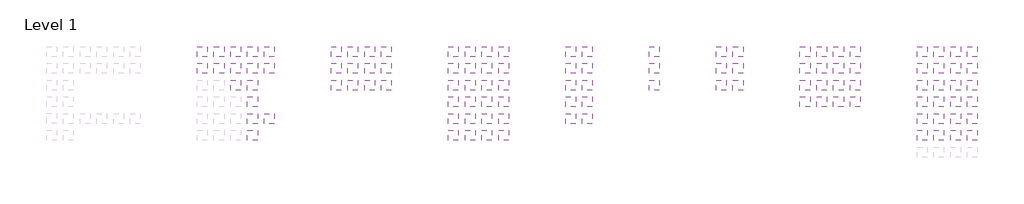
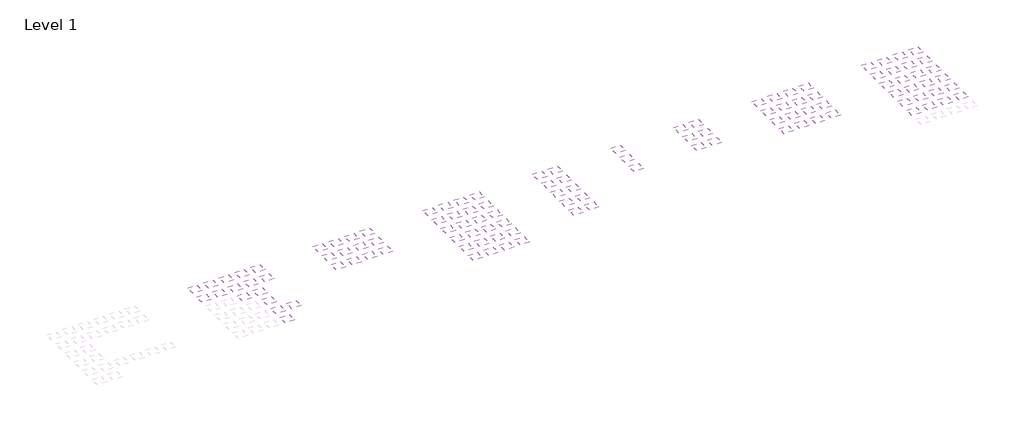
# One storey, part 4 of 4: 111 coverings.
"""IFC4 building model written with IfcOpenShell, lengths in millimetres."""

from ifc_helpers import new_model, si_unit, frame, origin, place, context, project, spatial, polyline, outline, extrude, element, save

model = new_model("IFC4")

# Units and contexts
model_context = context("Model", 3, world=origin())
ifc_project = project(units=[si_unit("LENGTHUNIT", "METRE", prefix="MILLI")], contexts=[model_context])

# Site, building, storey
site = spatial("IfcSite", under=ifc_project)
building = spatial("IfcBuilding", under=site)
storey = spatial("IfcBuildingStorey", under=building, Name="Level 1", Elevation=0.0)

# Coverings
placement = place(None, origin())
element("IfcCovering", 1, ObjectType="OWA Constellation S3 cliq 600x600_15", at=placement, inside=storey, context=model_context, shape_type="SweptSolid", body=[
    extrude(outline(polyline([(83112.2416021, 23626.6149871), (83112.2416021, 20626.6149871), (80112.2416021, 20626.6149871), (80112.2416021, 23626.6149871), (83112.2416021, 23626.6149871)])), frame((0.0, 0.0, 2600.0), z_axis=(0.0, 0.0, 1.0), x_axis=(1.0, 0.0, 0.0)), (0.0, 0.0, 1.0), 38.0),
])
element("IfcCovering", 2, ObjectType="OWA Constellation S3 cliq 600x1200_15", at=placement, inside=storey, context=model_context, shape_type="SweptSolid", body=[
    extrude(outline(polyline([(88114.2416021, 23626.6149871), (88114.2416021, 20626.6149871), (85114.2416021, 20626.6149871), (85114.2416021, 23626.6149871), (88114.2416021, 23626.6149871)])), frame((0.0, 0.0, 2600.0), z_axis=(0.0, 0.0, 1.0), x_axis=(1.0, 0.0, 0.0)), (0.0, 0.0, 1.0), 38.0),
])
element("IfcCovering", 3, ObjectType="OWA Constellation S3 cliq 625x625_15", at=placement, inside=storey, context=model_context, shape_type="SweptSolid", body=[
    extrude(outline(polyline([(93114.2416021, 23626.6149871), (93114.2416021, 20626.6149871), (90114.2416021, 20626.6149871), (90114.2416021, 23626.6149871), (93114.2416021, 23626.6149871)])), frame((0.0, 0.0, 2600.0), z_axis=(0.0, 0.0, 1.0), x_axis=(1.0, 0.0, 0.0)), (0.0, 0.0, 1.0), 38.0),
])
element("IfcCovering", 4, ObjectType="OWA Constellation S3 cliq 625x1250_15", at=placement, inside=storey, context=model_context, shape_type="SweptSolid", body=[
    extrude(outline(polyline([(98114.2416021, 23626.6149871), (98114.2416021, 20626.6149871), (95114.2416021, 20626.6149871), (95114.2416021, 23626.6149871), (98114.2416021, 23626.6149871)])), frame((0.0, 0.0, 2600.0), z_axis=(0.0, 0.0, 1.0), x_axis=(1.0, 0.0, 0.0)), (0.0, 0.0, 1.0), 38.0),
])
element("IfcCovering", 5, ObjectType="OWA Constellation S3a 625x625_15", at=placement, inside=storey, context=model_context, shape_type="SweptSolid", body=[
    extrude(outline(polyline([(93114.2416021, 18626.6149871), (93114.2416021, 15626.6149871), (90114.2416021, 15626.6149871), (90114.2416021, 18626.6149871), (93114.2416021, 18626.6149871)])), frame((0.0, 0.0, 2600.0), z_axis=(0.0, 0.0, 1.0), x_axis=(1.0, 0.0, 0.0)), (0.0, 0.0, 1.0), 38.0),
])
element("IfcCovering", 6, ObjectType="OWA Constellation S3a 625x1250_15", at=placement, inside=storey, context=model_context, shape_type="SweptSolid", body=[
    extrude(outline(polyline([(98114.2416021, 18626.6149871), (98114.2416021, 15626.6149871), (95114.2416021, 15626.6149871), (95114.2416021, 18626.6149871), (98114.2416021, 18626.6149871)])), frame((0.0, 0.0, 2600.0), z_axis=(0.0, 0.0, 1.0), x_axis=(1.0, 0.0, 0.0)), (0.0, 0.0, 1.0), 38.0),
])
element("IfcCovering", 7, ObjectType="OWA Constellation S3a cliq 625x1250_15", at=placement, inside=storey, context=model_context, shape_type="SweptSolid", body=[
    extrude(outline(polyline([(98114.2416021, 13626.6149871), (98114.2416021, 10626.6149871), (95114.2416021, 10626.6149871), (95114.2416021, 13626.6149871), (98114.2416021, 13626.6149871)])), frame((0.0, 0.0, 2600.0), z_axis=(0.0, 0.0, 1.0), x_axis=(1.0, 0.0, 0.0)), (0.0, 0.0, 1.0), 38.0),
])
element("IfcCovering", 8, ObjectType="OWA Constellation S15 cliq 625x1250_15", at=placement, inside=storey, context=model_context, shape_type="SweptSolid", body=[
    extrude(outline(polyline([(98114.2416021, 8626.6149871), (98114.2416021, 5626.6149871), (95114.2416021, 5626.6149871), (95114.2416021, 8626.6149871), (98114.2416021, 8626.6149871)])), frame((0.0, 0.0, 2600.0), z_axis=(0.0, 0.0, 1.0), x_axis=(1.0, 0.0, 0.0)), (0.0, 0.0, 1.0), 38.0),
])
element("IfcCovering", 9, ObjectType="OWA Constellation S15a cliq 625x1250_15", at=placement, inside=storey, context=model_context, shape_type="SweptSolid", body=[
    extrude(outline(polyline([(98114.2416021, 3626.6149871), (98114.2416021, 626.6149871), (95114.2416021, 626.6149871), (95114.2416021, 3626.6149871), (98114.2416021, 3626.6149871)])), frame((0.0, 0.0, 2600.0), z_axis=(0.0, 0.0, 1.0), x_axis=(1.0, 0.0, 0.0)), (0.0, 0.0, 1.0), 38.0),
])
element("IfcCovering", 10, ObjectType="OWA Constellation S3 600x600_15", at=placement, inside=storey, context=model_context, shape_type="SweptSolid", body=[
    extrude(outline(polyline([(83112.2416021, 28626.6149871), (83112.2416021, 25626.6149871), (80112.2416021, 25626.6149871), (80112.2416021, 28626.6149871), (83112.2416021, 28626.6149871)])), frame((0.0, 0.0, 2600.0), z_axis=(0.0, 0.0, 1.0), x_axis=(1.0, 0.0, 0.0)), (0.0, 0.0, 1.0), 38.0),
])
element("IfcCovering", 11, ObjectType="OWA Constellation S3 600x1200_15", at=placement, inside=storey, context=model_context, shape_type="SweptSolid", body=[
    extrude(outline(polyline([(88114.2416021, 28626.6149871), (88114.2416021, 25626.6149871), (85114.2416021, 25626.6149871), (85114.2416021, 28626.6149871), (88114.2416021, 28626.6149871)])), frame((0.0, 0.0, 2600.0), z_axis=(0.0, 0.0, 1.0), x_axis=(1.0, 0.0, 0.0)), (0.0, 0.0, 1.0), 38.0),
])
element("IfcCovering", 12, ObjectType="OWA Constellation S3 625x625_15", at=placement, inside=storey, context=model_context, shape_type="SweptSolid", body=[
    extrude(outline(polyline([(93114.2416021, 28626.6149871), (93114.2416021, 25626.6149871), (90114.2416021, 25626.6149871), (90114.2416021, 28626.6149871), (93114.2416021, 28626.6149871)])), frame((0.0, 0.0, 2600.0), z_axis=(0.0, 0.0, 1.0), x_axis=(1.0, 0.0, 0.0)), (0.0, 0.0, 1.0), 38.0),
])
element("IfcCovering", 13, ObjectType="OWA Constellation S3 625x1250_15", at=placement, inside=storey, context=model_context, shape_type="SweptSolid", body=[
    extrude(outline(polyline([(98114.2416021, 28626.6149871), (98114.2416021, 25626.6149871), (95114.2416021, 25626.6149871), (95114.2416021, 28626.6149871), (98114.2416021, 28626.6149871)])), frame((0.0, 0.0, 2600.0), z_axis=(0.0, 0.0, 1.0), x_axis=(1.0, 0.0, 0.0)), (0.0, 0.0, 1.0), 38.0),
])
element("IfcCovering", 14, ObjectType="OWA Constellation smart S3 600x600_14", at=placement, inside=storey, context=model_context, shape_type="SweptSolid", body=[
    extrude(outline(polyline([(123112.2416021, 28626.6149871), (123112.2416021, 25626.6149871), (120112.2416021, 25626.6149871), (120112.2416021, 28626.6149871), (123112.2416021, 28626.6149871)])), frame((0.0, 0.0, 2600.0), z_axis=(0.0, 0.0, 1.0), x_axis=(1.0, 0.0, 0.0)), (0.0, 0.0, 1.0), 38.0),
])
element("IfcCovering", 15, ObjectType="OWA Constellation smart S3 625x625_14", at=placement, inside=storey, context=model_context, shape_type="SweptSolid", body=[
    extrude(outline(polyline([(133114.2416021, 28626.6149871), (133114.2416021, 25626.6149871), (130114.2416021, 25626.6149871), (130114.2416021, 28626.6149871), (133114.2416021, 28626.6149871)])), frame((0.0, 0.0, 2600.0), z_axis=(0.0, 0.0, 1.0), x_axis=(1.0, 0.0, 0.0)), (0.0, 0.0, 1.0), 38.0),
])
element("IfcCovering", 16, ObjectType="OWA Constellation smart S3 cliq 600x600_14", at=placement, inside=storey, context=model_context, shape_type="SweptSolid", body=[
    extrude(outline(polyline([(123112.2416021, 23626.6149871), (123112.2416021, 20626.6149871), (120112.2416021, 20626.6149871), (120112.2416021, 23626.6149871), (123112.2416021, 23626.6149871)])), frame((0.0, 0.0, 2600.0), z_axis=(0.0, 0.0, 1.0), x_axis=(1.0, 0.0, 0.0)), (0.0, 0.0, 1.0), 38.0),
])
element("IfcCovering", 17, ObjectType="OWA Constellation smart S3 cliq 625x625_14", at=placement, inside=storey, context=model_context, shape_type="SweptSolid", body=[
    extrude(outline(polyline([(133114.2416021, 23626.6149871), (133114.2416021, 20626.6149871), (130114.2416021, 20626.6149871), (130114.2416021, 23626.6149871), (133114.2416021, 23626.6149871)])), frame((0.0, 0.0, 2600.0), z_axis=(0.0, 0.0, 1.0), x_axis=(1.0, 0.0, 0.0)), (0.0, 0.0, 1.0), 38.0),
])
element("IfcCovering", 18, ObjectType="OWA Constellation smart S15 cliq 600x600_14", at=placement, inside=storey, context=model_context, shape_type="SweptSolid", body=[
    extrude(outline(polyline([(123112.2416021, 18626.6149871), (123112.2416021, 15626.6149871), (120112.2416021, 15626.6149871), (120112.2416021, 18626.6149871), (123112.2416021, 18626.6149871)])), frame((0.0, 0.0, 2600.0), z_axis=(0.0, 0.0, 1.0), x_axis=(1.0, 0.0, 0.0)), (0.0, 0.0, 1.0), 38.0),
])
element("IfcCovering", 19, ObjectType="OWA Constellation smart S15 cliq 625x625_14", at=placement, inside=storey, context=model_context, shape_type="SweptSolid", body=[
    extrude(outline(polyline([(133114.2416021, 18626.6149871), (133114.2416021, 15626.6149871), (130114.2416021, 15626.6149871), (130114.2416021, 18626.6149871), (133114.2416021, 18626.6149871)])), frame((0.0, 0.0, 2600.0), z_axis=(0.0, 0.0, 1.0), x_axis=(1.0, 0.0, 0.0)), (0.0, 0.0, 1.0), 38.0),
])
element("IfcCovering", 20, ObjectType="OWA Cosmos/N S3 600x600_15", at=placement, inside=storey, context=model_context, shape_type="SweptSolid", body=[
    extrude(outline(polyline([(158110.2416021, 28626.6149871), (158110.2416021, 25626.6149871), (155110.2416021, 25626.6149871), (155110.2416021, 28626.6149871), (158110.2416021, 28626.6149871)])), frame((0.0, 0.0, 2600.0), z_axis=(0.0, 0.0, 1.0), x_axis=(1.0, 0.0, 0.0)), (0.0, 0.0, 1.0), 38.0),
])
element("IfcCovering", 21, ObjectType="OWA Cosmos/N S3 625x625_15", at=placement, inside=storey, context=model_context, shape_type="SweptSolid", body=[
    extrude(outline(polyline([(168112.2416021, 28626.6149871), (168112.2416021, 25626.6149871), (165112.2416021, 25626.6149871), (165112.2416021, 28626.6149871), (168112.2416021, 28626.6149871)])), frame((0.0, 0.0, 2600.0), z_axis=(0.0, 0.0, 1.0), x_axis=(1.0, 0.0, 0.0)), (0.0, 0.0, 1.0), 38.0),
])
element("IfcCovering", 22, ObjectType="OWA Cosmos/N S3 600x1200_15", at=placement, inside=storey, context=model_context, shape_type="SweptSolid", body=[
    extrude(outline(polyline([(163112.2416021, 28626.6149871), (163112.2416021, 25626.6149871), (160112.2416021, 25626.6149871), (160112.2416021, 28626.6149871), (163112.2416021, 28626.6149871)])), frame((0.0, 0.0, 2600.0), z_axis=(0.0, 0.0, 1.0), x_axis=(1.0, 0.0, 0.0)), (0.0, 0.0, 1.0), 38.0),
])
element("IfcCovering", 23, ObjectType="OWA Cosmos/N S3 625x1250_15", at=placement, inside=storey, context=model_context, shape_type="SweptSolid", body=[
    extrude(outline(polyline([(173110.2416021, 28626.6149871), (173110.2416021, 25626.6149871), (170110.2416021, 25626.6149871), (170110.2416021, 28626.6149871), (173110.2416021, 28626.6149871)])), frame((0.0, 0.0, 2600.0), z_axis=(0.0, 0.0, 1.0), x_axis=(1.0, 0.0, 0.0)), (0.0, 0.0, 1.0), 38.0),
])
element("IfcCovering", 24, ObjectType="OWA Cosmos/N S3a 600x600_15", at=placement, inside=storey, context=model_context, shape_type="SweptSolid", body=[
    extrude(outline(polyline([(158110.2416021, 18626.6149871), (158110.2416021, 15626.6149871), (155110.2416021, 15626.6149871), (155110.2416021, 18626.6149871), (158110.2416021, 18626.6149871)])), frame((0.0, 0.0, 2600.0), z_axis=(0.0, 0.0, 1.0), x_axis=(1.0, 0.0, 0.0)), (0.0, 0.0, 1.0), 38.0),
])
element("IfcCovering", 25, ObjectType="OWA Cosmos/N S3a 625x625_15", at=placement, inside=storey, context=model_context, shape_type="SweptSolid", body=[
    extrude(outline(polyline([(168112.2416021, 18626.6149871), (168112.2416021, 15626.6149871), (165112.2416021, 15626.6149871), (165112.2416021, 18626.6149871), (168112.2416021, 18626.6149871)])), frame((0.0, 0.0, 2600.0), z_axis=(0.0, 0.0, 1.0), x_axis=(1.0, 0.0, 0.0)), (0.0, 0.0, 1.0), 38.0),
])
element("IfcCovering", 26, ObjectType="OWA Cosmos/N S3a 600x1200_15", at=placement, inside=storey, context=model_context, shape_type="SweptSolid", body=[
    extrude(outline(polyline([(163112.2416021, 18626.6149871), (163112.2416021, 15626.6149871), (160112.2416021, 15626.6149871), (160112.2416021, 18626.6149871), (163112.2416021, 18626.6149871)])), frame((0.0, 0.0, 2600.0), z_axis=(0.0, 0.0, 1.0), x_axis=(1.0, 0.0, 0.0)), (0.0, 0.0, 1.0), 38.0),
])
element("IfcCovering", 27, ObjectType="OWA Cosmos/N S3a 625x1250_15", at=placement, inside=storey, context=model_context, shape_type="SweptSolid", body=[
    extrude(outline(polyline([(173112.2416021, 18626.6149871), (173112.2416021, 15626.6149871), (170112.2416021, 15626.6149871), (170112.2416021, 18626.6149871), (173112.2416021, 18626.6149871)])), frame((0.0, 0.0, 2600.0), z_axis=(0.0, 0.0, 1.0), x_axis=(1.0, 0.0, 0.0)), (0.0, 0.0, 1.0), 38.0),
])
element("IfcCovering", 28, ObjectType="OWA Cosmos/N S15 cliq 600x600_15", at=placement, inside=storey, context=model_context, shape_type="SweptSolid", body=[
    extrude(outline(polyline([(158110.2416021, 8626.6149871), (158110.2416021, 5626.6149871), (155110.2416021, 5626.6149871), (155110.2416021, 8626.6149871), (158110.2416021, 8626.6149871)])), frame((0.0, 0.0, 2600.0), z_axis=(0.0, 0.0, 1.0), x_axis=(1.0, 0.0, 0.0)), (0.0, 0.0, 1.0), 38.0),
])
element("IfcCovering", 29, ObjectType="OWA Cosmos/N S15 cliq 625x625_15", at=placement, inside=storey, context=model_context, shape_type="SweptSolid", body=[
    extrude(outline(polyline([(168112.2416021, 8626.6149871), (168112.2416021, 5626.6149871), (165112.2416021, 5626.6149871), (165112.2416021, 8626.6149871), (168112.2416021, 8626.6149871)])), frame((0.0, 0.0, 2600.0), z_axis=(0.0, 0.0, 1.0), x_axis=(1.0, 0.0, 0.0)), (0.0, 0.0, 1.0), 38.0),
])
element("IfcCovering", 30, ObjectType="OWA Cosmos/N S15 cliq 600x1200_15", at=placement, inside=storey, context=model_context, shape_type="SweptSolid", body=[
    extrude(outline(polyline([(163112.2416021, 8626.6149871), (163112.2416021, 5626.6149871), (160112.2416021, 5626.6149871), (160112.2416021, 8626.6149871), (163112.2416021, 8626.6149871)])), frame((0.0, 0.0, 2600.0), z_axis=(0.0, 0.0, 1.0), x_axis=(1.0, 0.0, 0.0)), (0.0, 0.0, 1.0), 38.0),
])
element("IfcCovering", 31, ObjectType="OWA Cosmos/N S15 cliq 625x1250_15", at=placement, inside=storey, context=model_context, shape_type="SweptSolid", body=[
    extrude(outline(polyline([(173112.2416021, 8626.6149871), (173112.2416021, 5626.6149871), (170112.2416021, 5626.6149871), (170112.2416021, 8626.6149871), (173112.2416021, 8626.6149871)])), frame((0.0, 0.0, 2600.0), z_axis=(0.0, 0.0, 1.0), x_axis=(1.0, 0.0, 0.0)), (0.0, 0.0, 1.0), 38.0),
])
element("IfcCovering", 32, ObjectType="OWA Cosmos/N S15a cliq 600x600_15", at=placement, inside=storey, context=model_context, shape_type="SweptSolid", body=[
    extrude(outline(polyline([(158110.2416021, 3626.6149871), (158110.2416021, 626.6149871), (155110.2416021, 626.6149871), (155110.2416021, 3626.6149871), (158110.2416021, 3626.6149871)])), frame((0.0, 0.0, 2600.0), z_axis=(0.0, 0.0, 1.0), x_axis=(1.0, 0.0, 0.0)), (0.0, 0.0, 1.0), 38.0),
])
element("IfcCovering", 33, ObjectType="OWA Cosmos/N S15a cliq 625x625_15", at=placement, inside=storey, context=model_context, shape_type="SweptSolid", body=[
    extrude(outline(polyline([(168112.2416021, 3626.6149871), (168112.2416021, 626.6149871), (165112.2416021, 626.6149871), (165112.2416021, 3626.6149871), (168112.2416021, 3626.6149871)])), frame((0.0, 0.0, 2600.0), z_axis=(0.0, 0.0, 1.0), x_axis=(1.0, 0.0, 0.0)), (0.0, 0.0, 1.0), 38.0),
])
element("IfcCovering", 34, ObjectType="OWA Cosmos/N S15a cliq 600x1200_15", at=placement, inside=storey, context=model_context, shape_type="SweptSolid", body=[
    extrude(outline(polyline([(163112.2416021, 3626.6149871), (163112.2416021, 626.6149871), (160112.2416021, 626.6149871), (160112.2416021, 3626.6149871), (163112.2416021, 3626.6149871)])), frame((0.0, 0.0, 2600.0), z_axis=(0.0, 0.0, 1.0), x_axis=(1.0, 0.0, 0.0)), (0.0, 0.0, 1.0), 38.0),
])
element("IfcCovering", 35, ObjectType="OWA Cosmos/N S15a cliq 625x1250_15", at=placement, inside=storey, context=model_context, shape_type="SweptSolid", body=[
    extrude(outline(polyline([(173112.2416021, 3626.6149871), (173112.2416021, 626.6149871), (170112.2416021, 626.6149871), (170112.2416021, 3626.6149871), (173112.2416021, 3626.6149871)])), frame((0.0, 0.0, 2600.0), z_axis=(0.0, 0.0, 1.0), x_axis=(1.0, 0.0, 0.0)), (0.0, 0.0, 1.0), 38.0),
])
element("IfcCovering", 36, ObjectType="OWA Cosmos/N S3 cliq 600x600_15", at=placement, inside=storey, context=model_context, shape_type="SweptSolid", body=[
    extrude(outline(polyline([(158110.2416021, 23626.6149871), (158110.2416021, 20626.6149871), (155110.2416021, 20626.6149871), (155110.2416021, 23626.6149871), (158110.2416021, 23626.6149871)])), frame((0.0, 0.0, 2600.0), z_axis=(0.0, 0.0, 1.0), x_axis=(1.0, 0.0, 0.0)), (0.0, 0.0, 1.0), 38.0),
])
element("IfcCovering", 37, ObjectType="OWA Cosmos/N S3 cliq 625x625_15", at=placement, inside=storey, context=model_context, shape_type="SweptSolid", body=[
    extrude(outline(polyline([(168112.2416021, 23626.6149871), (168112.2416021, 20626.6149871), (165112.2416021, 20626.6149871), (165112.2416021, 23626.6149871), (168112.2416021, 23626.6149871)])), frame((0.0, 0.0, 2600.0), z_axis=(0.0, 0.0, 1.0), x_axis=(1.0, 0.0, 0.0)), (0.0, 0.0, 1.0), 38.0),
])
element("IfcCovering", 38, ObjectType="OWA Cosmos/N S3 cliq 600x1200_15", at=placement, inside=storey, context=model_context, shape_type="SweptSolid", body=[
    extrude(outline(polyline([(163112.2416021, 23626.6149871), (163112.2416021, 20626.6149871), (160112.2416021, 20626.6149871), (160112.2416021, 23626.6149871), (163112.2416021, 23626.6149871)])), frame((0.0, 0.0, 2600.0), z_axis=(0.0, 0.0, 1.0), x_axis=(1.0, 0.0, 0.0)), (0.0, 0.0, 1.0), 38.0),
])
element("IfcCovering", 39, ObjectType="OWA Cosmos/N S3 cliq 625x1250_15", at=placement, inside=storey, context=model_context, shape_type="SweptSolid", body=[
    extrude(outline(polyline([(173112.2416021, 23626.6149871), (173112.2416021, 20626.6149871), (170112.2416021, 20626.6149871), (170112.2416021, 23626.6149871), (173112.2416021, 23626.6149871)])), frame((0.0, 0.0, 2600.0), z_axis=(0.0, 0.0, 1.0), x_axis=(1.0, 0.0, 0.0)), (0.0, 0.0, 1.0), 38.0),
])
element("IfcCovering", 40, ObjectType="OWA Cosmos/O S3 625x625_15", at=placement, inside=storey, context=model_context, shape_type="SweptSolid", body=[
    extrude(outline(polyline([(193104.2416021, 28626.6149871), (193104.2416021, 25626.6149871), (190104.2416021, 25626.6149871), (190104.2416021, 28626.6149871), (193104.2416021, 28626.6149871)])), frame((0.0, 0.0, 2600.0), z_axis=(0.0, 0.0, 1.0), x_axis=(1.0, 0.0, 0.0)), (0.0, 0.0, 1.0), 38.0),
])
element("IfcCovering", 41, ObjectType="OWA Cosmos/O S3a 625x1250_15", at=placement, inside=storey, context=model_context, shape_type="SweptSolid", body=[
    extrude(outline(polyline([(198106.2416021, 18626.6149871), (198106.2416021, 15626.6149871), (195106.2416021, 15626.6149871), (195106.2416021, 18626.6149871), (198106.2416021, 18626.6149871)])), frame((0.0, 0.0, 2600.0), z_axis=(0.0, 0.0, 1.0), x_axis=(1.0, 0.0, 0.0)), (0.0, 0.0, 1.0), 38.0),
])
element("IfcCovering", 42, ObjectType="OWA Cosmos/O S3 cliq 625x625_15", at=placement, inside=storey, context=model_context, shape_type="SweptSolid", body=[
    extrude(outline(polyline([(193104.2416021, 23626.6149871), (193104.2416021, 20626.6149871), (190104.2416021, 20626.6149871), (190104.2416021, 23626.6149871), (193104.2416021, 23626.6149871)])), frame((0.0, 0.0, 2600.0), z_axis=(0.0, 0.0, 1.0), x_axis=(1.0, 0.0, 0.0)), (0.0, 0.0, 1.0), 38.0),
])
element("IfcCovering", 43, ObjectType="OWA Cosmos/O S3a cliq 625x1250_15", at=placement, inside=storey, context=model_context, shape_type="SweptSolid", body=[
    extrude(outline(polyline([(198104.2416021, 13626.6149871), (198104.2416021, 10626.6149871), (195104.2416021, 10626.6149871), (195104.2416021, 13626.6149871), (198104.2416021, 13626.6149871)])), frame((0.0, 0.0, 2600.0), z_axis=(0.0, 0.0, 1.0), x_axis=(1.0, 0.0, 0.0)), (0.0, 0.0, 1.0), 38.0),
])
element("IfcCovering", 44, ObjectType="OWA Cosmos/O S3a 625x625_15", at=placement, inside=storey, context=model_context, shape_type="SweptSolid", body=[
    extrude(outline(polyline([(193104.2416021, 18626.6149871), (193104.2416021, 15626.6149871), (190104.2416021, 15626.6149871), (190104.2416021, 18626.6149871), (193104.2416021, 18626.6149871)])), frame((0.0, 0.0, 2600.0), z_axis=(0.0, 0.0, 1.0), x_axis=(1.0, 0.0, 0.0)), (0.0, 0.0, 1.0), 38.0),
])
element("IfcCovering", 45, ObjectType="OWA Cosmos/O S15 cliq 625x1250_15", at=placement, inside=storey, context=model_context, shape_type="SweptSolid", body=[
    extrude(outline(polyline([(198104.2416021, 8626.6149871), (198104.2416021, 5626.6149871), (195104.2416021, 5626.6149871), (195104.2416021, 8626.6149871), (198104.2416021, 8626.6149871)])), frame((0.0, 0.0, 2600.0), z_axis=(0.0, 0.0, 1.0), x_axis=(1.0, 0.0, 0.0)), (0.0, 0.0, 1.0), 38.0),
])
element("IfcCovering", 46, ObjectType="OWA Cosmos/O S3 cliq 625x1250_15", at=placement, inside=storey, context=model_context, shape_type="SweptSolid", body=[
    extrude(outline(polyline([(198104.2416021, 23626.6149871), (198104.2416021, 20626.6149871), (195104.2416021, 20626.6149871), (195104.2416021, 23626.6149871), (198104.2416021, 23626.6149871)])), frame((0.0, 0.0, 2600.0), z_axis=(0.0, 0.0, 1.0), x_axis=(1.0, 0.0, 0.0)), (0.0, 0.0, 1.0), 38.0),
])
element("IfcCovering", 47, ObjectType="OWA Cosmos/O S15 cliq 625x625_15", at=placement, inside=storey, context=model_context, shape_type="SweptSolid", body=[
    extrude(outline(polyline([(193104.2416021, 8626.6149871), (193104.2416021, 5626.6149871), (190104.2416021, 5626.6149871), (190104.2416021, 8626.6149871), (193104.2416021, 8626.6149871)])), frame((0.0, 0.0, 2600.0), z_axis=(0.0, 0.0, 1.0), x_axis=(1.0, 0.0, 0.0)), (0.0, 0.0, 1.0), 38.0),
])
element("IfcCovering", 48, ObjectType="OWA Cosmos/O S3 625x1250_15", at=placement, inside=storey, context=model_context, shape_type="SweptSolid", body=[
    extrude(outline(polyline([(198104.2416021, 28626.6149871), (198104.2416021, 25626.6149871), (195104.2416021, 25626.6149871), (195104.2416021, 28626.6149871), (198104.2416021, 28626.6149871)])), frame((0.0, 0.0, 2600.0), z_axis=(0.0, 0.0, 1.0), x_axis=(1.0, 0.0, 0.0)), (0.0, 0.0, 1.0), 38.0),
])
element("IfcCovering", 49, ObjectType="OWA Cosmos/O S3a cliq 625x625_15", at=placement, inside=storey, context=model_context, shape_type="SweptSolid", body=[
    extrude(outline(polyline([(193104.2416021, 13626.6149871), (193104.2416021, 10626.6149871), (190104.2416021, 10626.6149871), (190104.2416021, 13626.6149871), (193104.2416021, 13626.6149871)])), frame((0.0, 0.0, 2600.0), z_axis=(0.0, 0.0, 1.0), x_axis=(1.0, 0.0, 0.0)), (0.0, 0.0, 1.0), 38.0),
])
element("IfcCovering", 50, ObjectType="OWA Finetta S3 625x625_15", at=placement, inside=storey, context=model_context, shape_type="SweptSolid", body=[
    extrude(outline(polyline([(218102.2416021, 28626.6149871), (218102.2416021, 25626.6149871), (215102.2416021, 25626.6149871), (215102.2416021, 28626.6149871), (218102.2416021, 28626.6149871)])), frame((0.0, 0.0, 2600.0), z_axis=(0.0, 0.0, 1.0), x_axis=(1.0, 0.0, 0.0)), (0.0, 0.0, 1.0), 38.0),
])
element("IfcCovering", 51, ObjectType="OWA Finetta S15 cliq 625x625_15", at=placement, inside=storey, context=model_context, shape_type="SweptSolid", body=[
    extrude(outline(polyline([(218102.2416021, 18626.6149871), (218102.2416021, 15626.6149871), (215102.2416021, 15626.6149871), (215102.2416021, 18626.6149871), (218102.2416021, 18626.6149871)])), frame((0.0, 0.0, 2600.0), z_axis=(0.0, 0.0, 1.0), x_axis=(1.0, 0.0, 0.0)), (0.0, 0.0, 1.0), 38.0),
])
element("IfcCovering", 52, ObjectType="OWA Harmony S3 cliq 625x625_15", at=placement, inside=storey, context=model_context, shape_type="SweptSolid", body=[
    extrude(outline(polyline([(238102.2416021, 23626.6149871), (238102.2416021, 20626.6149871), (235102.2416021, 20626.6149871), (235102.2416021, 23626.6149871), (238102.2416021, 23626.6149871)])), frame((0.0, 0.0, 2600.0), z_axis=(0.0, 0.0, 1.0), x_axis=(1.0, 0.0, 0.0)), (0.0, 0.0, 1.0), 38.0),
])
element("IfcCovering", 53, ObjectType="OWA Harmony S3 cliq 625x1250_15", at=placement, inside=storey, context=model_context, shape_type="SweptSolid", body=[
    extrude(outline(polyline([(243102.2416021, 23626.6149871), (243102.2416021, 20626.6149871), (240102.2416021, 20626.6149871), (240102.2416021, 23626.6149871), (243102.2416021, 23626.6149871)])), frame((0.0, 0.0, 2600.0), z_axis=(0.0, 0.0, 1.0), x_axis=(1.0, 0.0, 0.0)), (0.0, 0.0, 1.0), 38.0),
])
element("IfcCovering", 54, ObjectType="OWA Harmony S15 cliq 625x625_15", at=placement, inside=storey, context=model_context, shape_type="SweptSolid", body=[
    extrude(outline(polyline([(238102.2416021, 18626.6149871), (238102.2416021, 15626.6149871), (235102.2416021, 15626.6149871), (235102.2416021, 18626.6149871), (238102.2416021, 18626.6149871)])), frame((0.0, 0.0, 2600.0), z_axis=(0.0, 0.0, 1.0), x_axis=(1.0, 0.0, 0.0)), (0.0, 0.0, 1.0), 38.0),
])
element("IfcCovering", 55, ObjectType="OWA Harmony S15 cliq 625x1250_15", at=placement, inside=storey, context=model_context, shape_type="SweptSolid", body=[
    extrude(outline(polyline([(243102.2416021, 18626.6149871), (243102.2416021, 15626.6149871), (240102.2416021, 15626.6149871), (240102.2416021, 18626.6149871), (243102.2416021, 18626.6149871)])), frame((0.0, 0.0, 2600.0), z_axis=(0.0, 0.0, 1.0), x_axis=(1.0, 0.0, 0.0)), (0.0, 0.0, 1.0), 38.0),
])
element("IfcCovering", 56, ObjectType="OWA Cosmos/N S3a cliq 600x600_15", at=placement, inside=storey, context=model_context, shape_type="SweptSolid", body=[
    extrude(outline(polyline([(158110.2416021, 13626.6149871), (158110.2416021, 10626.6149871), (155110.2416021, 10626.6149871), (155110.2416021, 13626.6149871), (158110.2416021, 13626.6149871)])), frame((0.0, 0.0, 2600.0), z_axis=(0.0, 0.0, 1.0), x_axis=(1.0, 0.0, 0.0)), (0.0, 0.0, 1.0), 38.0),
])
element("IfcCovering", 57, ObjectType="OWA Cosmos/N S3a cliq 625x625_15", at=placement, inside=storey, context=model_context, shape_type="SweptSolid", body=[
    extrude(outline(polyline([(168112.2416021, 13626.6149871), (168112.2416021, 10626.6149871), (165112.2416021, 10626.6149871), (165112.2416021, 13626.6149871), (168112.2416021, 13626.6149871)])), frame((0.0, 0.0, 2600.0), z_axis=(0.0, 0.0, 1.0), x_axis=(1.0, 0.0, 0.0)), (0.0, 0.0, 1.0), 38.0),
])
element("IfcCovering", 58, ObjectType="OWA Cosmos/N S3a cliq 600x1200_15", at=placement, inside=storey, context=model_context, shape_type="SweptSolid", body=[
    extrude(outline(polyline([(163112.2416021, 13626.6149871), (163112.2416021, 10626.6149871), (160112.2416021, 10626.6149871), (160112.2416021, 13626.6149871), (163112.2416021, 13626.6149871)])), frame((0.0, 0.0, 2600.0), z_axis=(0.0, 0.0, 1.0), x_axis=(1.0, 0.0, 0.0)), (0.0, 0.0, 1.0), 38.0),
])
element("IfcCovering", 59, ObjectType="OWA Cosmos/N S3a cliq 625x1250_15", at=placement, inside=storey, context=model_context, shape_type="SweptSolid", body=[
    extrude(outline(polyline([(173112.2416021, 13626.6149871), (173112.2416021, 10626.6149871), (170112.2416021, 10626.6149871), (170112.2416021, 13626.6149871), (173112.2416021, 13626.6149871)])), frame((0.0, 0.0, 2600.0), z_axis=(0.0, 0.0, 1.0), x_axis=(1.0, 0.0, 0.0)), (0.0, 0.0, 1.0), 38.0),
])
element("IfcCovering", 60, ObjectType="OWA Finetta S3 cliq 625x625_15", at=placement, inside=storey, context=model_context, shape_type="SweptSolid", body=[
    extrude(outline(polyline([(218102.2416021, 23626.6149871), (218102.2416021, 20626.6149871), (215102.2416021, 20626.6149871), (215102.2416021, 23626.6149871), (218102.2416021, 23626.6149871)])), frame((0.0, 0.0, 2600.0), z_axis=(0.0, 0.0, 1.0), x_axis=(1.0, 0.0, 0.0)), (0.0, 0.0, 1.0), 38.0),
])
element("IfcCovering", 61, ObjectType="OWA Constellation smart S3 600x1200_14", at=placement, inside=storey, context=model_context, shape_type="SweptSolid", body=[
    extrude(outline(polyline([(128114.2416021, 28626.6149871), (128114.2416021, 25626.6149871), (125114.2416021, 25626.6149871), (125114.2416021, 28626.6149871), (128114.2416021, 28626.6149871)])), frame((0.0, 0.0, 2600.0), z_axis=(0.0, 0.0, 1.0), x_axis=(1.0, 0.0, 0.0)), (0.0, 0.0, 1.0), 38.0),
])
element("IfcCovering", 62, ObjectType="OWA Constellation smart S3 625x1250_14", at=placement, inside=storey, context=model_context, shape_type="SweptSolid", body=[
    extrude(outline(polyline([(138114.2416021, 28626.6149871), (138114.2416021, 25626.6149871), (135114.2416021, 25626.6149871), (135114.2416021, 28626.6149871), (138114.2416021, 28626.6149871)])), frame((0.0, 0.0, 2600.0), z_axis=(0.0, 0.0, 1.0), x_axis=(1.0, 0.0, 0.0)), (0.0, 0.0, 1.0), 38.0),
])
element("IfcCovering", 63, ObjectType="OWA Constellation smart S3 cliq 600x1200_14", at=placement, inside=storey, context=model_context, shape_type="SweptSolid", body=[
    extrude(outline(polyline([(128114.2416021, 23626.6149871), (128114.2416021, 20626.6149871), (125114.2416021, 20626.6149871), (125114.2416021, 23626.6149871), (128114.2416021, 23626.6149871)])), frame((0.0, 0.0, 2600.0), z_axis=(0.0, 0.0, 1.0), x_axis=(1.0, 0.0, 0.0)), (0.0, 0.0, 1.0), 38.0),
])
element("IfcCovering", 64, ObjectType="OWA Constellation smart S3 cliq 625x1250_14", at=placement, inside=storey, context=model_context, shape_type="SweptSolid", body=[
    extrude(outline(polyline([(138114.2416021, 23626.6149871), (138114.2416021, 20626.6149871), (135114.2416021, 20626.6149871), (135114.2416021, 23626.6149871), (138114.2416021, 23626.6149871)])), frame((0.0, 0.0, 2600.0), z_axis=(0.0, 0.0, 1.0), x_axis=(1.0, 0.0, 0.0)), (0.0, 0.0, 1.0), 38.0),
])
element("IfcCovering", 65, ObjectType="OWA Constellation smart S15 cliq 600x1200_14", at=placement, inside=storey, context=model_context, shape_type="SweptSolid", body=[
    extrude(outline(polyline([(128114.2416021, 18626.6149871), (128114.2416021, 15626.6149871), (125114.2416021, 15626.6149871), (125114.2416021, 18626.6149871), (128114.2416021, 18626.6149871)])), frame((0.0, 0.0, 2600.0), z_axis=(0.0, 0.0, 1.0), x_axis=(1.0, 0.0, 0.0)), (0.0, 0.0, 1.0), 38.0),
])
element("IfcCovering", 66, ObjectType="OWA Constellation smart S15 cliq 625x1250_14", at=placement, inside=storey, context=model_context, shape_type="SweptSolid", body=[
    extrude(outline(polyline([(138114.2416021, 18626.6149871), (138114.2416021, 15626.6149871), (135114.2416021, 15626.6149871), (135114.2416021, 18626.6149871), (138114.2416021, 18626.6149871)])), frame((0.0, 0.0, 2600.0), z_axis=(0.0, 0.0, 1.0), x_axis=(1.0, 0.0, 0.0)), (0.0, 0.0, 1.0), 38.0),
])
element("IfcCovering", 67, ObjectType="OWA Constellation S3 625x625_20", at=placement, inside=storey, context=model_context, shape_type="SweptSolid", body=[
    extrude(outline(polyline([(103114.2416021, 28626.6149871), (103114.2416021, 25626.6149871), (100114.2416021, 25626.6149871), (100114.2416021, 28626.6149871), (103114.2416021, 28626.6149871)])), frame((0.0, 0.0, 2600.0), z_axis=(0.0, 0.0, 1.0), x_axis=(1.0, 0.0, 0.0)), (0.0, 0.0, 1.0), 43.0),
])
element("IfcCovering", 68, ObjectType="OWA Constellation S3 cliq 625x625_20", at=placement, inside=storey, context=model_context, shape_type="SweptSolid", body=[
    extrude(outline(polyline([(103114.2416021, 23626.6149871), (103114.2416021, 20626.6149871), (100114.2416021, 20626.6149871), (100114.2416021, 23626.6149871), (103114.2416021, 23626.6149871)])), frame((0.0, 0.0, 2600.0), z_axis=(0.0, 0.0, 1.0), x_axis=(1.0, 0.0, 0.0)), (0.0, 0.0, 1.0), 38.0),
])
element("IfcCovering", 69, ObjectType="OWA Constellation S15 cliq 625x625_20", at=placement, inside=storey, context=model_context, shape_type="SweptSolid", body=[
    extrude(outline(polyline([(103114.2416021, 8626.6149871), (103114.2416021, 5626.6149871), (100114.2416021, 5626.6149871), (100114.2416021, 8626.6149871), (103114.2416021, 8626.6149871)])), frame((0.0, 0.0, 2600.0), z_axis=(0.0, 0.0, 1.0), x_axis=(1.0, 0.0, 0.0)), (0.0, 0.0, 1.0), 43.0),
])
element("IfcCovering", 70, ObjectType="OWA Humancare Lab S3 600 x 600_20", at=placement, inside=storey, context=model_context, shape_type="SweptSolid", body=[
    extrude(outline(polyline([(263108.2416021, 28626.6149871), (263108.2416021, 25626.6149871), (260108.2416021, 25626.6149871), (260108.2416021, 28626.6149871), (263108.2416021, 28626.6149871)])), frame((0.0, 0.0, 2600.0), z_axis=(0.0, 0.0, 1.0), x_axis=(1.0, 0.0, 0.0)), (0.0, 0.0, 1.0), 38.0),
])
element("IfcCovering", 71, ObjectType="OWA Humancare Lab S3 625x625_20", at=placement, inside=storey, context=model_context, shape_type="SweptSolid", body=[
    extrude(outline(polyline([(273108.2416021, 28626.6149871), (273108.2416021, 25626.6149871), (270108.2416021, 25626.6149871), (270108.2416021, 28626.6149871), (273108.2416021, 28626.6149871)])), frame((0.0, 0.0, 2600.0), z_axis=(0.0, 0.0, 1.0), x_axis=(1.0, 0.0, 0.0)), (0.0, 0.0, 1.0), 38.0),
])
element("IfcCovering", 72, ObjectType="OWA Humancare Lab S3 625x1250_20", at=placement, inside=storey, context=model_context, shape_type="SweptSolid", body=[
    extrude(outline(polyline([(278108.2416021, 28626.6149871), (278108.2416021, 25626.6149871), (275108.2416021, 25626.6149871), (275108.2416021, 28626.6149871), (278108.2416021, 28626.6149871)])), frame((0.0, 0.0, 2600.0), z_axis=(0.0, 0.0, 1.0), x_axis=(1.0, 0.0, 0.0)), (0.0, 0.0, 1.0), 38.0),
])
element("IfcCovering", 73, ObjectType="OWA Humancare Lab S3 600x1200_20", at=placement, inside=storey, context=model_context, shape_type="SweptSolid", body=[
    extrude(outline(polyline([(268108.2416021, 28626.6149871), (268108.2416021, 25626.6149871), (265108.2416021, 25626.6149871), (265108.2416021, 28626.6149871), (268108.2416021, 28626.6149871)])), frame((0.0, 0.0, 2600.0), z_axis=(0.0, 0.0, 1.0), x_axis=(1.0, 0.0, 0.0)), (0.0, 0.0, 1.0), 38.0),
])
element("IfcCovering", 74, ObjectType="OWA Humancare Lab S3 cliq 600x600_20", at=placement, inside=storey, context=model_context, shape_type="SweptSolid", body=[
    extrude(outline(polyline([(263108.2416021, 23626.6149871), (263108.2416021, 20626.6149871), (260108.2416021, 20626.6149871), (260108.2416021, 23626.6149871), (263108.2416021, 23626.6149871)])), frame((0.0, 0.0, 2600.0), z_axis=(0.0, 0.0, 1.0), x_axis=(1.0, 0.0, 0.0)), (0.0, 0.0, 1.0), 38.0),
])
element("IfcCovering", 75, ObjectType="OWA Humancare Lab S3 cliq 625x1250_20", at=placement, inside=storey, context=model_context, shape_type="SweptSolid", body=[
    extrude(outline(polyline([(278112.2416021, 23626.6149871), (278112.2416021, 20626.6149871), (275112.2416021, 20626.6149871), (275112.2416021, 23626.6149871), (278112.2416021, 23626.6149871)])), frame((0.0, 0.0, 2600.0), z_axis=(0.0, 0.0, 1.0), x_axis=(1.0, 0.0, 0.0)), (0.0, 0.0, 1.0), 38.0),
])
element("IfcCovering", 76, ObjectType="OWA Humancare Lab S15 cliq 600x600_20", at=placement, inside=storey, context=model_context, shape_type="SweptSolid", body=[
    extrude(outline(polyline([(263108.2416021, 18626.6149871), (263108.2416021, 15626.6149871), (260108.2416021, 15626.6149871), (260108.2416021, 18626.6149871), (263108.2416021, 18626.6149871)])), frame((0.0, 0.0, 2600.0), z_axis=(0.0, 0.0, 1.0), x_axis=(1.0, 0.0, 0.0)), (0.0, 0.0, 1.0), 38.0),
])
element("IfcCovering", 77, ObjectType="OWA Humancare Lab S3 cliq 600x1200_20", at=placement, inside=storey, context=model_context, shape_type="SweptSolid", body=[
    extrude(outline(polyline([(268108.2416021, 23626.6149871), (268108.2416021, 20626.6149871), (265108.2416021, 20626.6149871), (265108.2416021, 23626.6149871), (268108.2416021, 23626.6149871)])), frame((0.0, 0.0, 2600.0), z_axis=(0.0, 0.0, 1.0), x_axis=(1.0, 0.0, 0.0)), (0.0, 0.0, 1.0), 38.0),
])
element("IfcCovering", 78, ObjectType="OWA Humancare Lab S15 cliq 600x1200_20", at=placement, inside=storey, context=model_context, shape_type="SweptSolid", body=[
    extrude(outline(polyline([(268108.2416021, 18626.6149871), (268108.2416021, 15626.6149871), (265108.2416021, 15626.6149871), (265108.2416021, 18626.6149871), (268108.2416021, 18626.6149871)])), frame((0.0, 0.0, 2600.0), z_axis=(0.0, 0.0, 1.0), x_axis=(1.0, 0.0, 0.0)), (0.0, 0.0, 1.0), 38.0),
])
element("IfcCovering", 79, ObjectType="OWA Humancare Lab S15 cliq 625x1250_20", at=placement, inside=storey, context=model_context, shape_type="SweptSolid", body=[
    extrude(outline(polyline([(278114.2416021, 18626.6149871), (278114.2416021, 15626.6149871), (275114.2416021, 15626.6149871), (275114.2416021, 18626.6149871), (278114.2416021, 18626.6149871)])), frame((0.0, 0.0, 2600.0), z_axis=(0.0, 0.0, 1.0), x_axis=(1.0, 0.0, 0.0)), (0.0, 0.0, 1.0), 38.0),
])
element("IfcCovering", 80, ObjectType="OWA Humancare Lab S3e 600x600_20", at=placement, inside=storey, context=model_context, shape_type="SweptSolid", body=[
    extrude(outline(polyline([(263108.2416021, 13626.6149871), (263108.2416021, 10626.6149871), (260108.2416021, 10626.6149871), (260108.2416021, 13626.6149871), (263108.2416021, 13626.6149871)])), frame((0.0, 0.0, 2600.0), z_axis=(0.0, 0.0, 1.0), x_axis=(1.0, 0.0, 0.0)), (0.0, 0.0, 1.0), 38.0),
])
element("IfcCovering", 81, ObjectType="OWA Humancare Lab S3e 625x625_20", at=placement, inside=storey, context=model_context, shape_type="SweptSolid", body=[
    extrude(outline(polyline([(273108.2416021, 13626.6149871), (273108.2416021, 10626.6149871), (270108.2416021, 10626.6149871), (270108.2416021, 13626.6149871), (273108.2416021, 13626.6149871)])), frame((0.0, 0.0, 2600.0), z_axis=(0.0, 0.0, 1.0), x_axis=(1.0, 0.0, 0.0)), (0.0, 0.0, 1.0), 38.0),
])
element("IfcCovering", 82, ObjectType="OWA Humancare Lab S3e 625x1250_20", at=placement, inside=storey, context=model_context, shape_type="SweptSolid", body=[
    extrude(outline(polyline([(278108.2416021, 13626.6149871), (278108.2416021, 10626.6149871), (275108.2416021, 10626.6149871), (275108.2416021, 13626.6149871), (278108.2416021, 13626.6149871)])), frame((0.0, 0.0, 2600.0), z_axis=(0.0, 0.0, 1.0), x_axis=(1.0, 0.0, 0.0)), (0.0, 0.0, 1.0), 38.0),
])
element("IfcCovering", 83, ObjectType="OWA Humancare Lab S3e 600x1200_20", at=placement, inside=storey, context=model_context, shape_type="SweptSolid", body=[
    extrude(outline(polyline([(268108.2416021, 13626.6149871), (268108.2416021, 10626.6149871), (265108.2416021, 10626.6149871), (265108.2416021, 13626.6149871), (268108.2416021, 13626.6149871)])), frame((0.0, 0.0, 2600.0), z_axis=(0.0, 0.0, 1.0), x_axis=(1.0, 0.0, 0.0)), (0.0, 0.0, 1.0), 38.0),
])
element("IfcCovering", 84, ObjectType="OWA Humancare Plus S3 625x625_20", at=placement, inside=storey, context=model_context, shape_type="SweptSolid", body=[
    extrude(outline(polyline([(308102.2416021, 28626.6149871), (308102.2416021, 25626.6149871), (305102.2416021, 25626.6149871), (305102.2416021, 28626.6149871), (308102.2416021, 28626.6149871)])), frame((0.0, 0.0, 2600.0), z_axis=(0.0, 0.0, 1.0), x_axis=(1.0, 0.0, 0.0)), (0.0, 0.0, 1.0), 38.0),
])
element("IfcCovering", 85, ObjectType="OWA Humancare Plus S3 600x600_20", at=placement, inside=storey, context=model_context, shape_type="SweptSolid", body=[
    extrude(outline(polyline([(298102.2416021, 28626.6149871), (298102.2416021, 25626.6149871), (295102.2416021, 25626.6149871), (295102.2416021, 28626.6149871), (298102.2416021, 28626.6149871)])), frame((0.0, 0.0, 2600.0), z_axis=(0.0, 0.0, 1.0), x_axis=(1.0, 0.0, 0.0)), (0.0, 0.0, 1.0), 38.0),
])
element("IfcCovering", 86, ObjectType="OWA Humancare Plus S3 600x1200_20", at=placement, inside=storey, context=model_context, shape_type="SweptSolid", body=[
    extrude(outline(polyline([(303102.2416021, 28626.6149871), (303102.2416021, 25626.6149871), (300102.2416021, 25626.6149871), (300102.2416021, 28626.6149871), (303102.2416021, 28626.6149871)])), frame((0.0, 0.0, 2600.0), z_axis=(0.0, 0.0, 1.0), x_axis=(1.0, 0.0, 0.0)), (0.0, 0.0, 1.0), 38.0),
])
element("IfcCovering", 87, ObjectType="OWA Humancare Plus S3 625x1250_20", at=placement, inside=storey, context=model_context, shape_type="SweptSolid", body=[
    extrude(outline(polyline([(313102.2416021, 28626.6149871), (313102.2416021, 25626.6149871), (310102.2416021, 25626.6149871), (310102.2416021, 28626.6149871), (313102.2416021, 28626.6149871)])), frame((0.0, 0.0, 2600.0), z_axis=(0.0, 0.0, 1.0), x_axis=(1.0, 0.0, 0.0)), (0.0, 0.0, 1.0), 38.0),
])
element("IfcCovering", 88, ObjectType="OWA Humancare Plus S15 cliq 625x625_20", at=placement, inside=storey, context=model_context, shape_type="SweptSolid", body=[
    extrude(outline(polyline([(308102.2416021, 3626.6149871), (308102.2416021, 626.6149871), (305102.2416021, 626.6149871), (305102.2416021, 3626.6149871), (308102.2416021, 3626.6149871)])), frame((0.0, 0.0, 2600.0), z_axis=(0.0, 0.0, 1.0), x_axis=(1.0, 0.0, 0.0)), (0.0, 0.0, 1.0), 38.0),
])
element("IfcCovering", 89, ObjectType="OWA Humancare Plus S15 cliq 600x600_20", at=placement, inside=storey, context=model_context, shape_type="SweptSolid", body=[
    extrude(outline(polyline([(298102.2416021, 3626.6149871), (298102.2416021, 626.6149871), (295102.2416021, 626.6149871), (295102.2416021, 3626.6149871), (298102.2416021, 3626.6149871)])), frame((0.0, 0.0, 2600.0), z_axis=(0.0, 0.0, 1.0), x_axis=(1.0, 0.0, 0.0)), (0.0, 0.0, 1.0), 38.0),
])
element("IfcCovering", 90, ObjectType="OWA Humancare Plus S15 cliq 600x1200_20", at=placement, inside=storey, context=model_context, shape_type="SweptSolid", body=[
    extrude(outline(polyline([(303102.2416021, 3626.6149871), (303102.2416021, 626.6149871), (300102.2416021, 626.6149871), (300102.2416021, 3626.6149871), (303102.2416021, 3626.6149871)])), frame((0.0, 0.0, 2600.0), z_axis=(0.0, 0.0, 1.0), x_axis=(1.0, 0.0, 0.0)), (0.0, 0.0, 1.0), 38.0),
])
element("IfcCovering", 91, ObjectType="OWA Humancare Plus S15 cliq 625x1250_20", at=placement, inside=storey, context=model_context, shape_type="SweptSolid", body=[
    extrude(outline(polyline([(313102.2416021, 3626.6149871), (313102.2416021, 626.6149871), (310102.2416021, 626.6149871), (310102.2416021, 3626.6149871), (313102.2416021, 3626.6149871)])), frame((0.0, 0.0, 2600.0), z_axis=(0.0, 0.0, 1.0), x_axis=(1.0, 0.0, 0.0)), (0.0, 0.0, 1.0), 38.0),
])
element("IfcCovering", 92, ObjectType="OWA Humancare Plus S3 cliq 600x600_20", at=placement, inside=storey, context=model_context, shape_type="SweptSolid", body=[
    extrude(outline(polyline([(298102.2416021, 23626.6149871), (298102.2416021, 20626.6149871), (295102.2416021, 20626.6149871), (295102.2416021, 23626.6149871), (298102.2416021, 23626.6149871)])), frame((0.0, 0.0, 2600.0), z_axis=(0.0, 0.0, 1.0), x_axis=(1.0, 0.0, 0.0)), (0.0, 0.0, 1.0), 38.0),
])
element("IfcCovering", 93, ObjectType="OWA Humancare Plus S3 cliq 625x1250_20", at=placement, inside=storey, context=model_context, shape_type="SweptSolid", body=[
    extrude(outline(polyline([(313102.2416021, 23626.6149871), (313102.2416021, 20626.6149871), (310102.2416021, 20626.6149871), (310102.2416021, 23626.6149871), (313102.2416021, 23626.6149871)])), frame((0.0, 0.0, 2600.0), z_axis=(0.0, 0.0, 1.0), x_axis=(1.0, 0.0, 0.0)), (0.0, 0.0, 1.0), 38.0),
])
element("IfcCovering", 94, ObjectType="OWA Humancare Plus S3a cliq 625x625_20", at=placement, inside=storey, context=model_context, shape_type="SweptSolid", body=[
    extrude(outline(polyline([(308102.2416021, 13626.6149871), (308102.2416021, 10626.6149871), (305102.2416021, 10626.6149871), (305102.2416021, 13626.6149871), (308102.2416021, 13626.6149871)])), frame((0.0, 0.0, 2600.0), z_axis=(0.0, 0.0, 1.0), x_axis=(1.0, 0.0, 0.0)), (0.0, 0.0, 1.0), 38.0),
])
element("IfcCovering", 95, ObjectType="OWA Humancare Plus S3a cliq 600x1200_20", at=placement, inside=storey, context=model_context, shape_type="SweptSolid", body=[
    extrude(outline(polyline([(303102.2416021, 13626.6149871), (303102.2416021, 10626.6149871), (300102.2416021, 10626.6149871), (300102.2416021, 13626.6149871), (303102.2416021, 13626.6149871)])), frame((0.0, 0.0, 2600.0), z_axis=(0.0, 0.0, 1.0), x_axis=(1.0, 0.0, 0.0)), (0.0, 0.0, 1.0), 38.0),
])
element("IfcCovering", 96, ObjectType="OWA Humancare Plus S3a cliq 625x1250_20", at=placement, inside=storey, context=model_context, shape_type="SweptSolid", body=[
    extrude(outline(polyline([(313102.2416021, 13626.6149871), (313102.2416021, 10626.6149871), (310102.2416021, 10626.6149871), (310102.2416021, 13626.6149871), (313102.2416021, 13626.6149871)])), frame((0.0, 0.0, 2600.0), z_axis=(0.0, 0.0, 1.0), x_axis=(1.0, 0.0, 0.0)), (0.0, 0.0, 1.0), 38.0),
])
element("IfcCovering", 97, ObjectType="OWA Humancare Plus S3a 625x625_20", at=placement, inside=storey, context=model_context, shape_type="SweptSolid", body=[
    extrude(outline(polyline([(308102.2416021, 18626.6149871), (308102.2416021, 15626.6149871), (305102.2416021, 15626.6149871), (305102.2416021, 18626.6149871), (308102.2416021, 18626.6149871)])), frame((0.0, 0.0, 2600.0), z_axis=(0.0, 0.0, 1.0), x_axis=(1.0, 0.0, 0.0)), (0.0, 0.0, 1.0), 38.0),
])
element("IfcCovering", 98, ObjectType="OWA Humancare Plus S3a cliq 600x600_20", at=placement, inside=storey, context=model_context, shape_type="SweptSolid", body=[
    extrude(outline(polyline([(298102.2416021, 13626.6149871), (298102.2416021, 10626.6149871), (295102.2416021, 10626.6149871), (295102.2416021, 13626.6149871), (298102.2416021, 13626.6149871)])), frame((0.0, 0.0, 2600.0), z_axis=(0.0, 0.0, 1.0), x_axis=(1.0, 0.0, 0.0)), (0.0, 0.0, 1.0), 38.0),
])
element("IfcCovering", 99, ObjectType="OWA Humancare Plus S3a 600x1200_20", at=placement, inside=storey, context=model_context, shape_type="SweptSolid", body=[
    extrude(outline(polyline([(303102.2416021, 18626.6149871), (303102.2416021, 15626.6149871), (300102.2416021, 15626.6149871), (300102.2416021, 18626.6149871), (303102.2416021, 18626.6149871)])), frame((0.0, 0.0, 2600.0), z_axis=(0.0, 0.0, 1.0), x_axis=(1.0, 0.0, 0.0)), (0.0, 0.0, 1.0), 38.0),
])
element("IfcCovering", 100, ObjectType="OWA Humancare Plus S3a 625x1250_20", at=placement, inside=storey, context=model_context, shape_type="SweptSolid", body=[
    extrude(outline(polyline([(313104.2416021, 18626.6149871), (313104.2416021, 15626.6149871), (310104.2416021, 15626.6149871), (310104.2416021, 18626.6149871), (313104.2416021, 18626.6149871)])), frame((0.0, 0.0, 2600.0), z_axis=(0.0, 0.0, 1.0), x_axis=(1.0, 0.0, 0.0)), (0.0, 0.0, 1.0), 38.0),
])
element("IfcCovering", 101, ObjectType="OWA Humancare Plus S3e 625x1250_20", at=placement, inside=storey, context=model_context, shape_type="SweptSolid", body=[
    extrude(outline(polyline([(313102.2416021, 8626.6149871), (313102.2416021, 5626.6149871), (310102.2416021, 5626.6149871), (310102.2416021, 8626.6149871), (313102.2416021, 8626.6149871)])), frame((0.0, 0.0, 2600.0), z_axis=(0.0, 0.0, 1.0), x_axis=(1.0, 0.0, 0.0)), (0.0, 0.0, 1.0), 38.0),
])
element("IfcCovering", 102, ObjectType="OWA Humancare Plus S3e 600x600_20", at=placement, inside=storey, context=model_context, shape_type="SweptSolid", body=[
    extrude(outline(polyline([(298102.2416021, 8626.6149871), (298102.2416021, 5626.6149871), (295102.2416021, 5626.6149871), (295102.2416021, 8626.6149871), (298102.2416021, 8626.6149871)])), frame((0.0, 0.0, 2600.0), z_axis=(0.0, 0.0, 1.0), x_axis=(1.0, 0.0, 0.0)), (0.0, 0.0, 1.0), 38.0),
])
element("IfcCovering", 103, ObjectType="OWA Humancare Plus S3e 625x625_20", at=placement, inside=storey, context=model_context, shape_type="SweptSolid", body=[
    extrude(outline(polyline([(308102.2416021, 8626.6149871), (308102.2416021, 5626.6149871), (305102.2416021, 5626.6149871), (305102.2416021, 8626.6149871), (308102.2416021, 8626.6149871)])), frame((0.0, 0.0, 2600.0), z_axis=(0.0, 0.0, 1.0), x_axis=(1.0, 0.0, 0.0)), (0.0, 0.0, 1.0), 38.0),
])
element("IfcCovering", 104, ObjectType="OWA Humancare Plus S3a 600x600_20", at=placement, inside=storey, context=model_context, shape_type="SweptSolid", body=[
    extrude(outline(polyline([(298102.2416021, 18626.6149871), (298102.2416021, 15626.6149871), (295102.2416021, 15626.6149871), (295102.2416021, 18626.6149871), (298102.2416021, 18626.6149871)])), frame((0.0, 0.0, 2600.0), z_axis=(0.0, 0.0, 1.0), x_axis=(1.0, 0.0, 0.0)), (0.0, 0.0, 1.0), 38.0),
])
element("IfcCovering", 105, ObjectType="OWA Humancare Lab S3 cliq 625x625_20", at=placement, inside=storey, context=model_context, shape_type="SweptSolid", body=[
    extrude(outline(polyline([(273112.2416021, 23626.6149871), (273112.2416021, 20626.6149871), (270112.2416021, 20626.6149871), (270112.2416021, 23626.6149871), (273112.2416021, 23626.6149871)])), frame((0.0, 0.0, 2600.0), z_axis=(0.0, 0.0, 1.0), x_axis=(1.0, 0.0, 0.0)), (0.0, 0.0, 1.0), 38.0),
])
element("IfcCovering", 106, ObjectType="OWA Humancare Lab S15 cliq 625x625_20", at=placement, inside=storey, context=model_context, shape_type="SweptSolid", body=[
    extrude(outline(polyline([(273112.2416021, 18626.6149871), (273112.2416021, 15626.6149871), (270112.2416021, 15626.6149871), (270112.2416021, 18626.6149871), (273112.2416021, 18626.6149871)])), frame((0.0, 0.0, 2600.0), z_axis=(0.0, 0.0, 1.0), x_axis=(1.0, 0.0, 0.0)), (0.0, 0.0, 1.0), 38.0),
])
element("IfcCovering", 107, ObjectType="OWA Humancare Plus S3 cliq 625x625_20", at=placement, inside=storey, context=model_context, shape_type="SweptSolid", body=[
    extrude(outline(polyline([(308112.2416021, 23626.6149871), (308112.2416021, 20626.6149871), (305112.2416021, 20626.6149871), (305112.2416021, 23626.6149871), (308112.2416021, 23626.6149871)])), frame((0.0, 0.0, 2600.0), z_axis=(0.0, 0.0, 1.0), x_axis=(1.0, 0.0, 0.0)), (0.0, 0.0, 1.0), 38.0),
])
element("IfcCovering", 108, ObjectType="OWA Humancare Plus S3e 600x1200_20", at=placement, inside=storey, context=model_context, shape_type="SweptSolid", body=[
    extrude(outline(polyline([(303112.2416021, 8626.6149871), (303112.2416021, 5626.6149871), (300112.2416021, 5626.6149871), (300112.2416021, 8626.6149871), (303112.2416021, 8626.6149871)])), frame((0.0, 0.0, 2600.0), z_axis=(0.0, 0.0, 1.0), x_axis=(1.0, 0.0, 0.0)), (0.0, 0.0, 1.0), 38.0),
])
element("IfcCovering", 109, ObjectType="OWA Humancare Plus S3 cliq 600x1200_20", at=placement, inside=storey, context=model_context, shape_type="SweptSolid", body=[
    extrude(outline(polyline([(303112.2416021, 23626.6149871), (303112.2416021, 20626.6149871), (300112.2416021, 20626.6149871), (300112.2416021, 23626.6149871), (303112.2416021, 23626.6149871)])), frame((0.0, 0.0, 2600.0), z_axis=(0.0, 0.0, 1.0), x_axis=(1.0, 0.0, 0.0)), (0.0, 0.0, 1.0), 38.0),
])
element("IfcCovering", 110, ObjectType="OWA Harmony S3 625x1250_15", at=placement, inside=storey, context=model_context, shape_type="SweptSolid", body=[
    extrude(outline(polyline([(243102.2416021, 28626.6149871), (243102.2416021, 25626.6149871), (240102.2416021, 25626.6149871), (240102.2416021, 28626.6149871), (243102.2416021, 28626.6149871)])), frame((0.0, 0.0, 2600.0), z_axis=(0.0, 0.0, 1.0), x_axis=(1.0, 0.0, 0.0)), (0.0, 0.0, 1.0), 38.0),
])
element("IfcCovering", 111, ObjectType="OWA Harmony S3 625x625_15", at=placement, inside=storey, context=model_context, shape_type="SweptSolid", body=[
    extrude(outline(polyline([(238102.2416021, 28626.6149871), (238102.2416021, 25626.6149871), (235102.2416021, 25626.6149871), (235102.2416021, 28626.6149871), (238102.2416021, 28626.6149871)])), frame((0.0, 0.0, 2600.0), z_axis=(0.0, 0.0, 1.0), x_axis=(1.0, 0.0, 0.0)), (0.0, 0.0, 1.0), 38.0),
])

save(model, "model.ifc")
